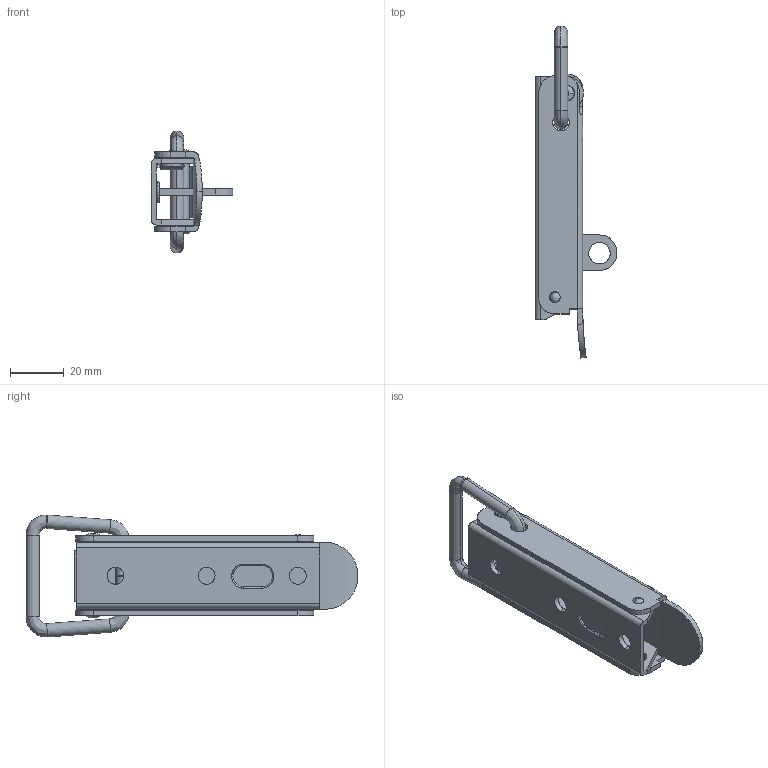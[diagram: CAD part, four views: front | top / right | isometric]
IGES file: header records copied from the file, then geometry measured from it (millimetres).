
Start section: SolidWorks IGES FILE using analytic representation for surfaces
Global section: file name: C:\Documents and Settings\lecoutey\Bureau\GO 80\GO 80.IGS; native system: SolidWorks 2004 by SolidWorks Corporation; preprocessor: Version 5.3; author: lecoutey; date: 050329.120145; units: millimetre
Bounding box: 30.5 x 123.8 x 45.49 mm (x, y, z)
Surface area: 24920 mm2 (no closed solid volume)
Topology: 0 solids, 0 shells, 211 faces, 3202 edges, 3201 vertices
Faces by surface type: bspline 106, revolution 105
